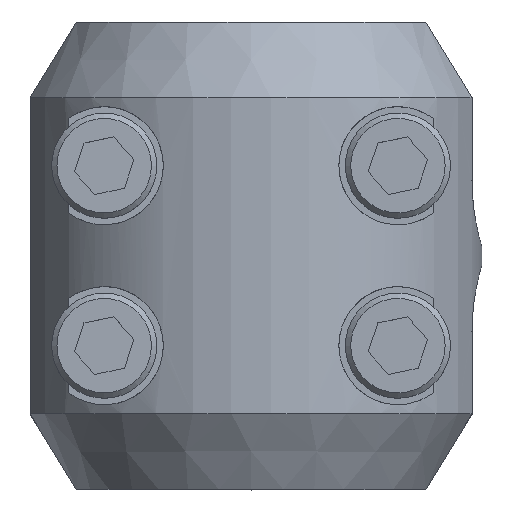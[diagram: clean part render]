
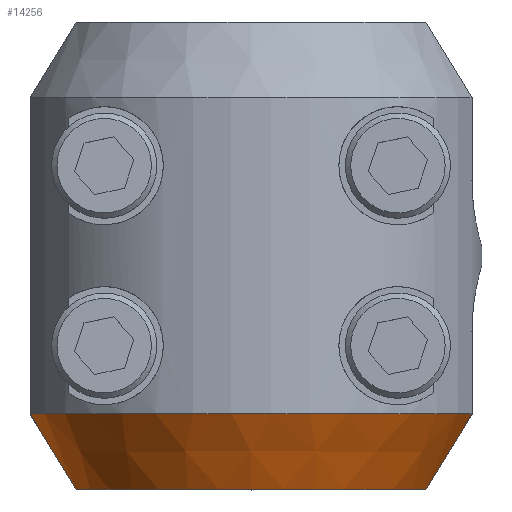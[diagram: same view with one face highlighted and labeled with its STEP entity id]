
A CAD part, top view. The second image highlights one B-rep face of the part: STEP entity #14256.
In plain terms, the highlighted conical face has half-angle 30 degrees and reference radius 19.881 mm.
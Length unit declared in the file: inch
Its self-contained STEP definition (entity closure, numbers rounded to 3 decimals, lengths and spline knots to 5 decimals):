
#65=CONICAL_SURFACE('',#15153,0.78272,30.);
#72=(
BOUNDED_CURVE()
B_SPLINE_CURVE(2,(#32965,#32966,#32967),.UNSPECIFIED.,.F.,.F.)
B_SPLINE_CURVE_WITH_KNOTS((3,3),(0.,0.84278),.UNSPECIFIED.)
CURVE()
GEOMETRIC_REPRESENTATION_ITEM()
RATIONAL_B_SPLINE_CURVE((1.,1.006,1.))
REPRESENTATION_ITEM('')
);
#75=(
BOUNDED_CURVE()
B_SPLINE_CURVE(2,(#33077,#33078,#33079),.UNSPECIFIED.,.F.,.F.)
B_SPLINE_CURVE_WITH_KNOTS((3,3),(0.,0.84278),.UNSPECIFIED.)
CURVE()
GEOMETRIC_REPRESENTATION_ITEM()
RATIONAL_B_SPLINE_CURVE((1.,1.006,1.))
REPRESENTATION_ITEM('')
);
#1569=FACE_OUTER_BOUND('',#2433,.T.);
#2433=EDGE_LOOP('',(#13069,#13070,#13071,#13072));
#2841=CIRCLE('',#15039,0.8645);
#2889=CIRCLE('',#15154,0.70094);
#6810=VERTEX_POINT('',#32481);
#6811=VERTEX_POINT('',#32483);
#6873=VERTEX_POINT('',#32963);
#6904=VERTEX_POINT('',#33076);
#8854=EDGE_CURVE('',#6811,#6810,#2841,.T.);
#8919=EDGE_CURVE('',#6810,#6873,#72,.T.);
#8952=EDGE_CURVE('',#6904,#6811,#75,.T.);
#9017=EDGE_CURVE('',#6873,#6904,#2889,.T.);
#13069=ORIENTED_EDGE('',*,*,#8952,.T.);
#13070=ORIENTED_EDGE('',*,*,#8854,.T.);
#13071=ORIENTED_EDGE('',*,*,#8919,.T.);
#13072=ORIENTED_EDGE('',*,*,#9017,.T.);
#14256=ADVANCED_FACE('',(#1569),#65,.T.);
#15039=AXIS2_PLACEMENT_3D('',#32484,#17540,#17541);
#15153=AXIS2_PLACEMENT_3D('',#33262,#17823,#17824);
#15154=AXIS2_PLACEMENT_3D('',#33263,#17825,#17826);
#17540=DIRECTION('center_axis',(0.,-1.,0.));
#17541=DIRECTION('ref_axis',(1.,0.,0.));
#17823=DIRECTION('center_axis',(0.,1.,0.));
#17824=DIRECTION('ref_axis',(1.,0.,0.));
#17825=DIRECTION('center_axis',(0.,1.,0.));
#17826=DIRECTION('ref_axis',(1.,0.,0.));
#32481=CARTESIAN_POINT('',(0.03694,-1.4667,0.25));
#32483=CARTESIAN_POINT('',(1.69206,-1.4667,0.25));
#32484=CARTESIAN_POINT('Origin',(0.8645,-1.4667,0.));
#32963=CARTESIAN_POINT('',(0.20966,-1.75,0.25));
#32965=CARTESIAN_POINT('Ctrl Pts',(0.03694,-1.4667,0.25));
#32966=CARTESIAN_POINT('Ctrl Pts',(0.13232,-1.62485,
0.25));
#32967=CARTESIAN_POINT('Ctrl Pts',(0.20966,-1.75,0.25));
#33076=CARTESIAN_POINT('',(1.51934,-1.75,0.25));
#33077=CARTESIAN_POINT('Ctrl Pts',(1.51934,-1.75,0.25));
#33078=CARTESIAN_POINT('Ctrl Pts',(1.59668,-1.62485,0.25));
#33079=CARTESIAN_POINT('Ctrl Pts',(1.69206,-1.4667,0.25));
#33262=CARTESIAN_POINT('Origin',(0.8645,-1.60835,0.));
#33263=CARTESIAN_POINT('Origin',(0.8645,-1.75,0.));
